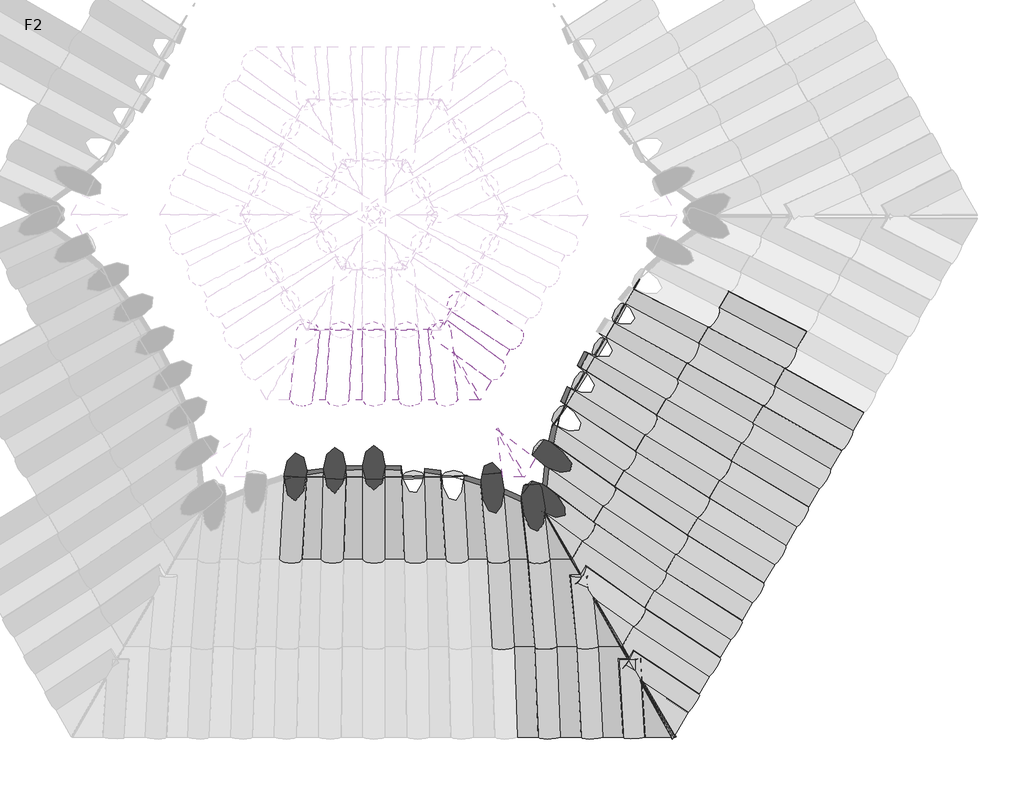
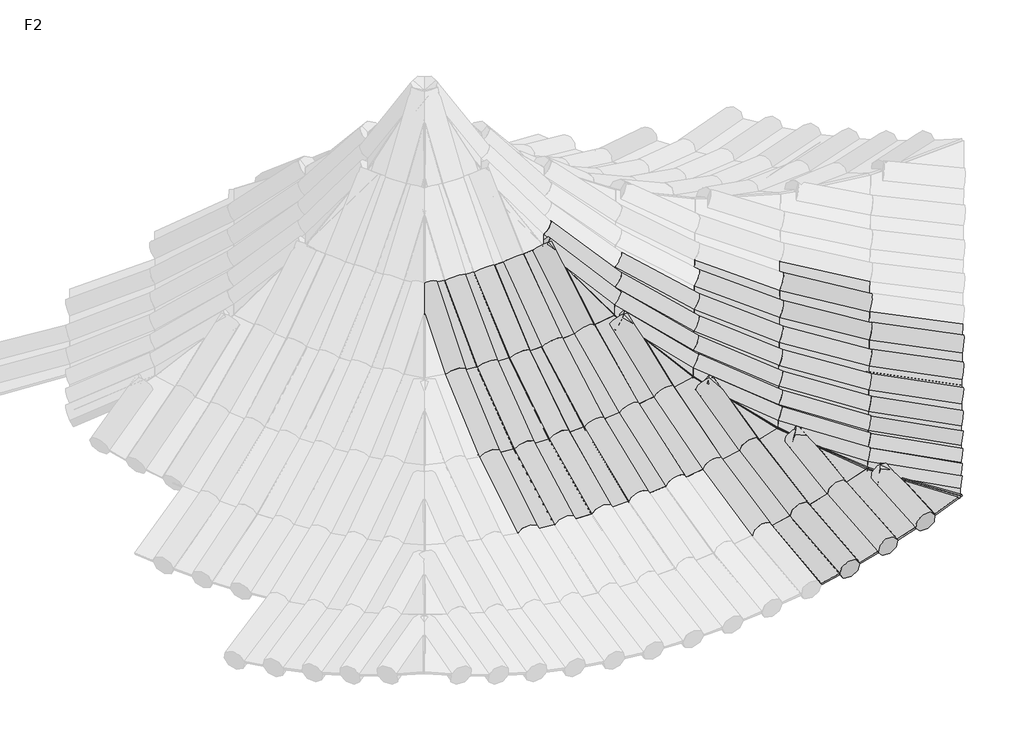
# One storey, part 2 of 6: 56 plates, 52 members.
"""IFC4 building model written with IfcOpenShell, lengths in millimetres."""

from ifc_helpers import new_model, si_unit, origin, place, context, project, spatial, transform, mapped, element, save
from components import member_7626b7be, member_fd67414a, member_5a0915c5, member_3b22838b, member_1e72f84d, member_f81221a5, member_02d8162e, member_7e32749a, member_c71233b3, member_69260188, member_985b398b, member_f4842659, member_5ab32efa, member_9361b17f, member_fd7b3f03, member_f726278f, member_74f9c3dd, member_f9a0b85f, member_28539939, member_3c0b60bf, member_ee4a1047, member_c9bd8968, member_42887ada, plate_0ebb438e, plate_6b57b127, plate_d3f52e52, plate_d213f6b1, plate_9638d80c, plate_89c366d1, plate_aaafe28a, plate_ecf98e0f, plate_a8a21952, plate_665b0e48, plate_f97c0013, plate_6a16cba0, plate_1539b490, plate_9ed079f8, plate_51358e00, plate_823a82dc, plate_c055fcc8, plate_38bc2d65, plate_a3322e93, plate_fe606144, plate_ecea87b7, plate_f94965ac, plate_2cce4260

model = new_model("IFC4")

# Units and contexts
model_context = context("Model", 3, world=origin())
ifc_project = project(units=[si_unit("LENGTHUNIT", "METRE", prefix="MILLI")], contexts=[model_context])

# Site, building, storey
site = spatial("IfcSite", under=ifc_project)
building = spatial("IfcBuilding", under=site)
storey = spatial("IfcBuildingStorey", under=building, Name="F2", Elevation=4000.0)

# Members
placement = place(None, origin())
member_shape = member_7626b7be(model_context)
element("IfcMember", 1, ObjectType="矩形竖梃 : 圆瓦", at=placement, inside=storey, context=model_context, shape_type="MappedRepresentation", body=[
    mapped(member_shape, transform((-12493.0169351, -3215.6299363, 4853.1986775), x_axis=(0.47227571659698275, 0.806505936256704, -0.3556737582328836), y_axis=(0.3156513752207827, 0.22200504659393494, 0.9225388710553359), z_axis=(0.8229944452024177, -0.5479616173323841, -0.14972711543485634))),
])
member_2_shape = member_fd67414a(model_context)
element("IfcMember", 2, ObjectType="矩形竖梃 : 圆瓦", at=placement, inside=storey, context=model_context, shape_type="MappedRepresentation", body=[
    mapped(member_2_shape, transform((-15960.18168, -1972.0884052, 4854.7494012), x_axis=(0.9926628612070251, 0.0, -0.1209150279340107), y_axis=(0.10937181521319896, -0.42640042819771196, 0.8978978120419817), z_axis=(-0.05155821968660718, -0.9045345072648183, -0.4232718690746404))),
])
element("IfcMember", 3, ObjectType="矩形竖梃 : 圆瓦", at=placement, inside=storey, context=model_context, shape_type="MappedRepresentation", body=[
    mapped(member_2_shape, transform((-15601.6633892, -1972.0884052, 4822.0668801), x_axis=(0.9981640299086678, 0.0, -0.06056871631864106), y_axis=(0.054786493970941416, -0.4264004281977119, 0.9028738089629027), z_axis=(-0.02582652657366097, -0.9045345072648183, -0.4256175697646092))),
])
element("IfcMember", 4, ObjectType="矩形竖梃 : 圆瓦", at=placement, inside=storey, context=model_context, shape_type="MappedRepresentation", body=[
    mapped(member_2_shape, transform((-15919.4448897, -1257.4044461, 5189.1817669), x_axis=(0.9926628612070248, 0.0, -0.12091502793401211), y_axis=(0.1014078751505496, -0.5446390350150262, 0.8325171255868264), z_axis=(-0.06585504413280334, -0.8386705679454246, -0.5406429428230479))),
])
element("IfcMember", 5, ObjectType="矩形竖梃 : 圆瓦", at=placement, inside=storey, context=model_context, shape_type="MappedRepresentation", body=[
    mapped(member_2_shape, transform((-15581.2575294, -1257.4044461, 5158.3526132), x_axis=(0.9981640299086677, 0.0, -0.060568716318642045), y_axis=(0.05079719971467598, -0.5446390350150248, 0.8371307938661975), z_axis=(-0.03298808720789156, -0.8386705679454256, -0.5436390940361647))),
])
element("IfcMember", 6, ObjectType="矩形竖梃 : 圆瓦", at=placement, inside=storey, context=model_context, shape_type="MappedRepresentation", body=[
    mapped(member_2_shape, transform((-15555.1932316, -594.7604043, 5587.8886197), x_axis=(0.9981640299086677, 0.0, -0.06056871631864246), y_axis=(0.04587738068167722, -0.6529007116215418, 0.7560528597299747), z_axis=(-0.039545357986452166, -0.7574435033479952, -0.6517020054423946))),
])
member_3_shape = member_5a0915c5(model_context)
element("IfcMember", 7, ObjectType="矩形竖梃 : 圆瓦", at=placement, inside=storey, context=model_context, shape_type="MappedRepresentation", body=[
    mapped(member_3_shape, transform((-15867.4120006, -594.7604043, 5616.3504772), x_axis=(0.9926628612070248, 0.0, -0.12091502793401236), y_axis=(0.0915863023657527, -0.6529007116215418, 0.7518860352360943), z_axis=(-0.07894550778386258, -0.7574435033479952, -0.6481102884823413))),
])
member_4_shape = member_3b22838b(model_context)
element("IfcMember", 8, ObjectType="矩形竖梃 : 圆瓦", at=placement, inside=storey, context=model_context, shape_type="MappedRepresentation", body=[
    mapped(member_4_shape, transform((-13726.6652136, -3504.4950657, 4625.0375895), x_axis=(0.9707591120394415, 0.0, 0.24005571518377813), y_axis=(-0.2366110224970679, -0.16879928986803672, 0.9568291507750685), z_axis=(0.040521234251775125, -0.9856504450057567, -0.1638634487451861))),
])
element("IfcMember", 9, ObjectType="矩形竖梃 : 圆瓦", at=placement, inside=storey, context=model_context, shape_type="MappedRepresentation", body=[
    mapped(member_4_shape, transform((-11358.6254101, -1278.4278597, 4440.4780088), x_axis=(0.5053183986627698, 0.8629329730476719, 0.0), y_axis=(0.1456624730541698, -0.08529738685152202, 0.9856504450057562), z_axis=(0.8505502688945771, -0.4980673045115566, -0.16879928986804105))),
])
element("IfcMember", 10, ObjectType="矩形竖梃 : 圆瓦", at=placement, inside=storey, context=model_context, shape_type="MappedRepresentation", body=[
    mapped(member_4_shape, transform((-11165.4465857, -948.536097, 4452.0660929), x_axis=(0.504390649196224, 0.861348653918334, 0.0605687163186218), y_axis=(0.11549517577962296, -0.13681412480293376, 0.9838408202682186), z_axis=(0.8557166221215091, -0.4892447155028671, -0.1684893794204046))),
])
member_5_shape = member_1e72f84d(model_context)
element("IfcMember", 11, ObjectType="矩形竖梃 : 圆瓦", at=placement, inside=storey, context=model_context, shape_type="MappedRepresentation", body=[
    mapped(member_5_shape, transform((-13358.3342427, -3504.4950657, 4728.0580377), x_axis=(0.9544369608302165, 0.0, 0.2984126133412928), y_axis=(-0.29413052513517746, -0.16879928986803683, 0.9407412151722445), z_axis=(0.0503718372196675, -0.9856504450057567, -0.1611082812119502))),
])
member_6_shape = member_f81221a5(model_context)
element("IfcMember", 12, ObjectType="矩形竖梃 : 圆瓦", at=placement, inside=storey, context=model_context, shape_type="MappedRepresentation", body=[
    mapped(member_6_shape, transform((-15241.8237888, -1972.0884052, 4811.1593559), x_axis=(1.0, 0.0, 0.0), y_axis=(0.0, -0.4264004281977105, 0.9045345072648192), z_axis=(0.0, -0.9045345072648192, -0.4264004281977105))),
])
element("IfcMember", 13, ObjectType="矩形竖梃 : 圆瓦", at=placement, inside=storey, context=model_context, shape_type="MappedRepresentation", body=[
    mapped(member_6_shape, transform((-15241.8237888, -1257.4044461, 5148.0636351), x_axis=(1.0, 0.0, 0.0), y_axis=(0.0, -0.5446390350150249, 0.8386705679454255), z_axis=(0.0, -0.8386705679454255, -0.5446390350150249))),
])
element("IfcMember", 14, ObjectType="矩形竖梃 : 圆瓦", at=placement, inside=storey, context=model_context, shape_type="MappedRepresentation", body=[
    mapped(member_6_shape, transform((-15241.8237888, -594.7604043, 5578.3897074), x_axis=(1.0, 0.0, 0.0), y_axis=(0.0, -0.6529007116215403, 0.7574435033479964), z_axis=(0.0, -0.7574435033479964, -0.6529007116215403))),
])
member_7_shape = member_02d8162e(model_context)
element("IfcMember", 15, ObjectType="矩形竖梃 : 圆瓦", at=placement, inside=storey, context=model_context, shape_type="MappedRepresentation", body=[
    mapped(member_7_shape, transform((-14124.6754413, -2725.7203958, 4675.6876498), x_axis=(0.9835166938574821, 0.0, 0.180817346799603), y_axis=(-0.17246879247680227, -0.3003508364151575, 0.9381065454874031), z_axis=(0.05430864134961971, -0.9538287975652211, -0.295400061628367))),
])
element("IfcMember", 16, ObjectType="矩形竖梃 : 圆瓦", at=placement, inside=storey, context=model_context, shape_type="MappedRepresentation", body=[
    mapped(member_7_shape, transform((-14881.9841885, -1972.0884052, 4822.0668801), x_axis=(0.9981640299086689, 0.0, 0.06056871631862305), y_axis=(-0.05478649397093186, -0.42640042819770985, 0.9028738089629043), z_axis=(0.025826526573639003, -0.9045345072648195, -0.42561756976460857))),
])
element("IfcMember", 17, ObjectType="矩形竖梃 : 圆瓦", at=placement, inside=storey, context=model_context, shape_type="MappedRepresentation", body=[
    mapped(member_7_shape, transform((-14523.4658976, -1972.0884052, 4854.7494012), x_axis=(0.9926628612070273, 0.0, 0.12091502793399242), y_axis=(-0.10937181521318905, -0.4264004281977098, 0.8978978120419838), z_axis=(0.05155821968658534, -0.9045345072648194, -0.42327186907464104))),
])
element("IfcMember", 18, ObjectType="矩形竖梃 : 圆瓦", at=placement, inside=storey, context=model_context, shape_type="MappedRepresentation", body=[
    mapped(member_7_shape, transform((-14902.3900482, -1257.4044461, 5158.3526132), x_axis=(0.998164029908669, 0.0, 0.06056871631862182), y_axis=(-0.050797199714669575, -0.5446390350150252, 0.8371307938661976), z_axis=(0.03298808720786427, -0.8386705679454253, -0.5436390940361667))),
])
element("IfcMember", 19, ObjectType="矩形竖梃 : 圆瓦", at=placement, inside=storey, context=model_context, shape_type="MappedRepresentation", body=[
    mapped(member_7_shape, transform((-14564.2026879, -1257.4044461, 5189.1817669), x_axis=(0.9926628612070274, 0.0, 0.12091502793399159), y_axis=(-0.10140787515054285, -0.5446390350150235, 0.8325171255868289), z_axis=(0.06585504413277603, -0.8386705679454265, -0.5406429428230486))),
])
element("IfcMember", 20, ObjectType="矩形竖梃 : 圆瓦", at=placement, inside=storey, context=model_context, shape_type="MappedRepresentation", body=[
    mapped(member_7_shape, transform((-14928.454346, -594.7604043, 5587.8886197), x_axis=(0.9981640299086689, 0.0, 0.060568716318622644), y_axis=(-0.04587738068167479, -0.6529007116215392, 0.756052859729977), z_axis=(0.03954535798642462, -0.7574435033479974, -0.6517020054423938))),
])
element("IfcMember", 21, ObjectType="矩形竖梃 : 圆瓦", at=placement, inside=storey, context=model_context, shape_type="MappedRepresentation", body=[
    mapped(member_7_shape, transform((-12030.6557513, -884.8986906, 4573.8484261), x_axis=(0.505318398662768, 0.862932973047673, 0.0), y_axis=(0.25918264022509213, -0.15177280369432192, 0.953828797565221), z_axis=(0.8230903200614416, -0.48198724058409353, -0.30035083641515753))),
])
element("IfcMember", 22, ObjectType="矩形竖梃 : 圆瓦", at=placement, inside=storey, context=model_context, shape_type="MappedRepresentation", body=[
    mapped(member_7_shape, transform((-11841.5589269, -561.9777652, 4585.1916462), x_axis=(0.5043906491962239, 0.861348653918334, 0.060568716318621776), y_axis=(0.22998929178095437, -0.20162632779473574, 0.9520775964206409), z_axis=(0.8322830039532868, -0.4662888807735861, -0.2997994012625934))),
])
element("IfcMember", 23, ObjectType="矩形竖梃 : 圆瓦", at=placement, inside=storey, context=model_context, shape_type="MappedRepresentation", body=[
    mapped(member_7_shape, transform((-11653.1564547, -240.2425861, 4619.1796547), x_axis=(0.5016108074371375, 0.8566015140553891, 0.12091502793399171), y_axis=(0.20090313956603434, -0.2512967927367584, 0.9468304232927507), z_axis=(0.8414419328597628, -0.45064816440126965, -0.29814712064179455))),
])
element("IfcMember", 24, ObjectType="矩形竖梃 : 圆瓦", at=placement, inside=storey, context=model_context, shape_type="MappedRepresentation", body=[
    mapped(member_7_shape, transform((-12680.9896456, -504.0745799, 4811.1593559), x_axis=(0.5053183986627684, 0.8629329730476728, 0.0), y_axis=(0.36795498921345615, -0.215467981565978, 0.904534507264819), z_axis=(0.7805526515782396, -0.4570779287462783, -0.4264004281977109))),
])
element("IfcMember", 25, ObjectType="矩形竖梃 : 圆瓦", at=placement, inside=storey, context=model_context, shape_type="MappedRepresentation", body=[
    mapped(member_7_shape, transform((-12499.156075, -193.5571237, 4822.0668801), x_axis=(0.5043906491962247, 0.8613486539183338, 0.060568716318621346), y_axis=(0.3402703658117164, -0.262745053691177, 0.9028738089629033), z_axis=(0.7936032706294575, -0.4347913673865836, -0.42561756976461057))),
])
element("IfcMember", 26, ObjectType="矩形竖梃 : 圆瓦", at=placement, inside=storey, context=model_context, shape_type="MappedRepresentation", body=[
    mapped(member_7_shape, transform((-13297.7139992, -142.9316261, 5148.0636351), x_axis=(0.5053183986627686, 0.8629329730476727, 0.0), y_axis=(0.46998698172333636, -0.275216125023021, 0.8386705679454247), z_axis=(0.7237164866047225, -0.4237956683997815, -0.5446390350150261))),
])
member_8_shape = member_7e32749a(model_context)
element("IfcMember", 27, ObjectType="矩形竖梃 : 圆瓦", at=placement, inside=storey, context=model_context, shape_type="MappedRepresentation", body=[
    mapped(member_8_shape, transform((-13758.6815446, -2725.7203958, 4754.5081374), x_axis=(0.9707591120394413, 0.0, 0.2400557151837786), y_axis=(-0.22897205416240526, -0.3003508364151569, 0.9259379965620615), z_axis=(0.07210093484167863, -0.9538287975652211, -0.2915683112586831))),
])
member_9_shape = member_c71233b3(model_context)
element("IfcMember", 28, ObjectType="矩形竖梃 : 圆瓦", at=placement, inside=storey, context=model_context, shape_type="MappedRepresentation", body=[
    mapped(member_9_shape, transform((-14167.585374, -1972.0884052, 4909.0869108), x_axis=(0.983516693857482, 0.0, 0.18081734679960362), y_axis=(-0.16355552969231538, -0.4264004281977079, 0.889624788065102), z_axis=(0.07710059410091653, -0.9045345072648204, -0.4193719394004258))),
])
member_10_shape = member_69260188(model_context)
element("IfcMember", 29, ObjectType="矩形竖梃 : 圆瓦", at=placement, inside=storey, context=model_context, shape_type="MappedRepresentation", body=[
    mapped(member_10_shape, transform((-14228.5035119, -1257.4044461, 5240.4378936), x_axis=(0.983516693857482, 0.0, 0.18081734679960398), y_axis=(-0.15205700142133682, -0.5411244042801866, 0.8270810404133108), z_axis=(0.09784467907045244, -0.8409425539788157, -0.5322048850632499))),
])
member_11_shape = member_985b398b(model_context)
element("IfcMember", 30, ObjectType="矩形竖梃 : 圆瓦", at=placement, inside=storey, context=model_context, shape_type="MappedRepresentation", body=[
    mapped(member_11_shape, transform((-14616.235577, -594.7604043, 5616.3504772), x_axis=(0.9926628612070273, 0.0, 0.12091502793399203), y_axis=(-0.09158630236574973, -0.6529007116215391, 0.7518860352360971), z_axis=(0.07894550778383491, -0.7574435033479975, -0.648110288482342))),
])
member_12_shape = member_f4842659(model_context)
element("IfcMember", 31, ObjectType="矩形竖梃 : 圆瓦", at=placement, inside=storey, context=model_context, shape_type="MappedRepresentation", body=[
    mapped(member_12_shape, transform((-13398.1336574, -2725.7203958, 4855.3516935), x_axis=(0.9544369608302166, 0.0, 0.2984126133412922), y_axis=(-0.2856661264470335, -0.28914372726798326, 0.9136688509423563), z_axis=(0.08628413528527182, -0.957285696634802, -0.2759694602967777))),
])
member_13_shape = member_5ab32efa(model_context)
element("IfcMember", 32, ObjectType="矩形竖梃 : 圆瓦", at=placement, inside=storey, context=model_context, shape_type="MappedRepresentation", body=[
    mapped(member_13_shape, transform((-13815.6493895, -1972.0884052, 4984.8798848), x_axis=(0.9707591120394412, 0.0, 0.2400557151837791), y_axis=(-0.21812448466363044, -0.4175779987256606, 0.8820716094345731), z_axis=(0.10024198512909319, -0.908641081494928, -0.4053676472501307))),
])
member_14_shape = member_9361b17f(model_context)
element("IfcMember", 33, ObjectType="矩形竖梃 : 圆瓦", at=placement, inside=storey, context=model_context, shape_type="MappedRepresentation", body=[
    mapped(member_14_shape, transform((-12996.9193326, -3504.4950657, 4853.1986775), x_axis=(0.9346101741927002, 0.0, 0.355673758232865), y_axis=(-0.35107984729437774, -0.16020404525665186, 0.9225386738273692), z_axis=(0.05698037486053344, -0.9870839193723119, -0.14972833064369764))),
])
member_15_shape = member_fd7b3f03(model_context)
element("IfcMember", 34, ObjectType="矩形竖梃 : 圆瓦", at=placement, inside=storey, context=model_context, shape_type="MappedRepresentation", body=[
    mapped(member_15_shape, transform((-12962.3062961, -2475.879697, 4855.3516935), x_axis=(0.48229455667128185, 0.8236151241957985, -0.29841261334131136), y_axis=(0.39386290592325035, 0.10040185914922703, 0.9136692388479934), z_axis=(0.7824729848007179, -0.5581913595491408, -0.275968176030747))),
])
member_16_shape = member_f726278f(model_context)
element("IfcMember", 35, ObjectType="矩形竖梃 : 圆瓦", at=placement, inside=storey, context=model_context, shape_type="MappedRepresentation", body=[
    mapped(member_16_shape, transform((-12310.3873315, -2903.7530934, 4728.0580377), x_axis=(0.48229455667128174, 0.8236151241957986, -0.2984126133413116), y_axis=(0.2942920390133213, 0.16851754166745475, 0.9407412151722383), z_axis=(0.825096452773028, -0.5415348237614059, -0.16110828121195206))),
])
member_17_shape = member_74f9c3dd(model_context)
element("IfcMember", 36, ObjectType="矩形竖梃 : 圆瓦", at=placement, inside=storey, context=model_context, shape_type="MappedRepresentation", body=[
    mapped(member_17_shape, transform((-12780.1148152, -2164.7510369, 4754.5081374), x_axis=(0.49054243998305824, 0.8377000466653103, -0.24005571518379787), y_axis=(0.3748864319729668, 0.04581473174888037, 0.9259379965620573), z_axis=(0.7866563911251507, -0.5442055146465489, -0.2915683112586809))),
])
member_18_shape = member_f9a0b85f(model_context)
element("IfcMember", 37, ObjectType="矩形竖梃 : 圆瓦", at=placement, inside=storey, context=model_context, shape_type="MappedRepresentation", body=[
    mapped(member_18_shape, transform((-13401.6618092, -1734.7674943, 4984.8798848), x_axis=(0.49054243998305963, 0.8377000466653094, -0.24005571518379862), y_axis=(0.47056279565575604, -0.022782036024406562, 0.8820723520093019), z_axis=(0.7334430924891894, -0.5456552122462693, -0.40536603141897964))),
])
member_19_shape = member_28539939(model_context)
element("IfcMember", 38, ObjectType="矩形竖梃 : 圆瓦", at=placement, inside=storey, context=model_context, shape_type="MappedRepresentation", body=[
    mapped(member_19_shape, transform((-12124.262915, -2585.9081536, 4625.0375895), x_axis=(0.49054243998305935, 0.8377000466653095, -0.24005571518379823), y_axis=(0.26522637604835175, 0.11888206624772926, 0.9568291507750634), z_axis=(0.8300741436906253, -0.5330344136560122, -0.16386344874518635))),
])
element("IfcMember", 39, ObjectType="矩形竖梃 : 圆瓦", at=placement, inside=storey, context=model_context, shape_type="MappedRepresentation", body=[
    mapped(member_19_shape, transform((-11935.3271235, -2263.2622243, 4544.5156178), x_axis=(0.4969890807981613, 0.8487089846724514, -0.18081734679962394), y_axis=(0.23572168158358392, 0.06849685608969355, 0.9694036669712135), z_axis=(0.8351270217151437, -0.5244056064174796, -0.16601691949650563))),
])
element("IfcMember", 40, ObjectType="矩形竖梃 : 圆瓦", at=placement, inside=storey, context=model_context, shape_type="MappedRepresentation", body=[
    mapped(member_19_shape, transform((-11744.2737177, -1937.0000421, 4486.7877946), x_axis=(0.5016108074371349, 0.8566015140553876, -0.1209150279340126), y_axis=(0.20588629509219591, 0.017546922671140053, 0.9784185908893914), z_axis=(0.8402365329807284, -0.5156800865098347, -0.1675607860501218))),
])
element("IfcMember", 41, ObjectType="矩形竖梃 : 圆瓦", at=placement, inside=storey, context=model_context, shape_type="MappedRepresentation", body=[
    mapped(member_19_shape, transform((-11551.8042345, -1608.3196223, 4452.0660929), x_axis=(0.5043906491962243, 0.8613486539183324, -0.06056871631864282), y_axis=(0.1758297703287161, -0.0337806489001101, 0.9838408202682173), z_axis=(0.8453839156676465, -0.5068898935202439, -0.1684893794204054))),
])
member_20_shape = member_3c0b60bf(model_context)
element("IfcMember", 42, ObjectType="矩形竖梃 : 圆瓦", at=placement, inside=storey, context=model_context, shape_type="MappedRepresentation", body=[
    mapped(member_20_shape, transform((-12595.1713654, -1848.9228354, 4675.6876498), x_axis=(0.49698908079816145, 0.8487089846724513, -0.18081734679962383), y_axis=(0.3463342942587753, -0.0029437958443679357, 0.9381065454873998), z_axis=(0.7956471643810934, -0.5288519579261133, -0.2954000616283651))),
])
element("IfcMember", 43, ObjectType="矩形竖梃 : 圆瓦", at=placement, inside=storey, context=model_context, shape_type="MappedRepresentation", body=[
    mapped(member_20_shape, transform((-12408.155048, -1529.554795, 4619.1796547), x_axis=(0.5016108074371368, 0.8566015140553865, -0.12091502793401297), y_axis=(0.31746214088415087, -0.05224881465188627, 0.9468304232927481), z_axis=(0.8047387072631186, -0.5133263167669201, -0.298147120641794))),
])
element("IfcMember", 44, ObjectType="矩形竖梃 : 圆瓦", at=placement, inside=storey, context=model_context, shape_type="MappedRepresentation", body=[
    mapped(member_20_shape, transform((-12219.7525758, -1207.819616, 4585.1916462), x_axis=(0.5043906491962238, 0.8613486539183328, -0.06056871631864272), y_axis=(0.28837598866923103, -0.10191927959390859, 0.9520775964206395), z_axis=(0.8138976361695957, -0.4976856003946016, -0.2997994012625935))),
])
element("IfcMember", 45, ObjectType="矩形竖梃 : 圆瓦", at=placement, inside=storey, context=model_context, shape_type="MappedRepresentation", body=[
    mapped(member_20_shape, transform((-13043.9891048, -1123.9692906, 4854.7494012), x_axis=(0.5016108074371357, 0.8566015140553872, -0.12091502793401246), y_axis=(0.4232225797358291, -0.12108743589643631, 0.8978978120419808), z_axis=(0.7544993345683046, -0.5015692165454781, -0.4232718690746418))),
])
element("IfcMember", 46, ObjectType="矩形竖梃 : 圆瓦", at=placement, inside=storey, context=model_context, shape_type="MappedRepresentation", body=[
    mapped(member_20_shape, transform((-12862.8232162, -814.592036, 4822.0668801), x_axis=(0.5043906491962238, 0.8613486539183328, -0.060568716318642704), y_axis=(0.3956396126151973, -0.1681909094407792, 0.9028738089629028), z_axis=(0.7675020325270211, -0.47936449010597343, -0.4256175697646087))),
])
element("IfcMember", 47, ObjectType="矩形竖梃 : 圆瓦", at=placement, inside=storey, context=model_context, shape_type="MappedRepresentation", body=[
    mapped(member_20_shape, transform((-13640.1284088, -727.6732173, 5189.1817669), x_axis=(0.5016108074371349, 0.8566015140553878, -0.12091502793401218), y_axis=(0.5212302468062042, -0.1877079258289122, 0.832517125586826), z_axis=(0.6904387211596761, -0.48062415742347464, -0.5406429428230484))),
])
element("IfcMember", 48, ObjectType="矩形竖梃 : 圆瓦", at=placement, inside=storey, context=model_context, shape_type="MappedRepresentation", body=[
    mapped(member_20_shape, transform((-13469.2361134, -435.8401931, 5158.3526132), x_axis=(0.5043906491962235, 0.8613486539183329, -0.060568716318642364), y_axis=(0.4956557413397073, -0.231381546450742, 0.8371307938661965), z_axis=(0.7070469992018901, -0.45226217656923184, -0.5436390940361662))),
])
element("IfcMember", 49, ObjectType="矩形竖梃 : 圆瓦", at=placement, inside=storey, context=model_context, shape_type="MappedRepresentation", body=[
    mapped(member_20_shape, transform((-14027.8827373, -78.502225, 5587.8886197), x_axis=(0.5043906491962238, 0.8613486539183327, -0.060568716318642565), y_axis=(0.5865922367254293, -0.29033363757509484, 0.7560528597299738), z_axis=(0.6336399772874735, -0.4168751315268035, -0.6517020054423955))),
])
member_21_shape = member_ee4a1047(model_context)
element("IfcMember", 50, ObjectType="矩形竖梃 : 圆瓦", at=placement, inside=storey, context=model_context, shape_type="MappedRepresentation", body=[
    mapped(member_21_shape, transform((-13223.8220812, -1431.070329, 4909.0869108), x_axis=(0.4969890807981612, 0.8487089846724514, -0.18081734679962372), y_axis=(0.4506026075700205, -0.07433052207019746, 0.8896247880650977), z_axis=(0.7415923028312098, -0.5236105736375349, -0.41937193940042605))),
])
member_22_shape = member_c9bd8968(model_context)
element("IfcMember", 51, ObjectType="矩形竖梃 : 圆瓦", at=placement, inside=storey, context=model_context, shape_type="MappedRepresentation", body=[
    mapped(member_22_shape, transform((-13809.7633789, -1017.3591054, 5240.4378936), x_axis=(0.4969890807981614, 0.8487089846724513, -0.18081734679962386), y_axis=(0.5437896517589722, -0.14222388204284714, 0.8270823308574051), z_axis=(0.6762356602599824, -0.5093774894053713, -0.5322028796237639))),
])
member_23_shape = member_42887ada(model_context)
element("IfcMember", 52, ObjectType="矩形竖梃 : 圆瓦", at=placement, inside=storey, context=model_context, shape_type="MappedRepresentation", body=[
    mapped(member_23_shape, transform((-14185.6526257, -347.9260956, 5616.3504772), x_axis=(0.5016108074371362, 0.856601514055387, -0.12091502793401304), y_axis=(0.6096897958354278, -0.2508899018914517, 0.7518860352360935), z_axis=(0.6137303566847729, -0.4508748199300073, -0.6481102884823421))),
])

# Plates
plate_shape = plate_0ebb438e(model_context)
element("IfcPlate", 53, ObjectType="空系统嵌板 : 空", at=placement, inside=storey, context=model_context, shape_type="MappedRepresentation", body=[
    mapped(plate_shape, transform((-12424.7797093, -3099.1011254, 4806.441471), x_axis=(0.4775043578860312, 0.8154348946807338, -0.3271933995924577), y_axis=(-0.30856396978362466, -0.1930387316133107, -0.9314098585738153), z_axis=(-0.8226650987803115, 0.5457123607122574, 0.15943699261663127))),
])
plate_2_shape = plate_6b57b127(model_context)
element("IfcPlate", 54, ObjectType="空系统嵌板 : 空", at=placement, inside=storey, context=model_context, shape_type="MappedRepresentation", body=[
    mapped(plate_2_shape, transform((-13913.612485, -3504.4950657, 4584.7766036), x_axis=(0.9775867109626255, 0.0, 0.21053318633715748), y_axis=(0.20751484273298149, 0.16872400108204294, -0.963571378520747), z_axis=(-0.03552200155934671, 0.9856633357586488, 0.16494234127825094))),
])
element("IfcPlate", 55, ObjectType="空系统嵌板 : 空", at=placement, inside=storey, context=model_context, shape_type="MappedRepresentation", body=[
    mapped(plate_2_shape, transform((-13542.4997281, -3504.4950657, 4676.5478136), x_axis=(0.9630401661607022, 0.0, 0.26935782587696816), y_axis=(0.26549613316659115, 0.168724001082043, -0.9492333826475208), z_axis=(-0.04544713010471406, 0.9856633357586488, 0.16248799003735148))),
])
element("IfcPlate", 56, ObjectType="空系统嵌板 : 空", at=placement, inside=storey, context=model_context, shape_type="MappedRepresentation", body=[
    mapped(plate_2_shape, transform((-12217.3251232, -2744.8306235, 4676.5478136), x_axis=(0.48664191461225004, 0.8310391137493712, -0.2693578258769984), y_axis=(-0.27975758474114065, -0.1438460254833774, -0.9492333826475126), z_axis=(-0.8275961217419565, 0.5372916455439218, 0.16248799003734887))),
])
element("IfcPlate", 57, ObjectType="空系统嵌板 : 空", at=placement, inside=storey, context=model_context, shape_type="MappedRepresentation", body=[
    mapped(plate_2_shape, transform((-12029.7950192, -2424.5851889, 4584.7766036), x_axis=(0.4939925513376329, 0.8435918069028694, -0.21053318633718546), y_axis=(-0.25045857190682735, -0.0938120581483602, -0.9635713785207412), z_axis=(-0.8326114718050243, 0.5287269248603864, 0.1649423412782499))),
])
element("IfcPlate", 58, ObjectType="空系统嵌板 : 空", at=placement, inside=storey, context=model_context, shape_type="MappedRepresentation", body=[
    mapped(plate_2_shape, transform((-11839.8004206, -2100.1311332, 4515.6517062), x_axis=(0.49952927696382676, 0.8530468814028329, -0.1509354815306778), y_axis=(-0.2207745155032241, -0.04312055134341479, -0.9743711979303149), z_axis=(-0.8376927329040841, 0.520049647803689, 0.16679103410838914))),
])
element("IfcPlate", 59, ObjectType="空系统嵌板 : 空", at=placement, inside=storey, context=model_context, shape_type="MappedRepresentation", body=[
    mapped(plate_2_shape, transform((-11648.0389761, -1772.6598322, 4469.4269438), x_axis=(0.5032317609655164, 0.8593696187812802, -0.09078355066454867), y_axis=(-0.19081441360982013, 0.008042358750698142, -0.9815931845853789), z_axis=(-0.8428212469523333, 0.5112916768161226, 0.1680272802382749))),
])
element("IfcPlate", 60, ObjectType="空系统嵌板 : 空", at=placement, inside=storey, context=model_context, shape_type="MappedRepresentation", body=[
    mapped(plate_2_shape, transform((-11455.2148223, -1443.373741, 4446.2720508), x_axis=(0.5050864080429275, 0.8625368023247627, -0.030298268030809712), y_axis=(-0.16068827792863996, 0.05948880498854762, -0.985210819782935), z_axis=(-0.8479781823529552, 0.5024851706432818, 0.16864654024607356))),
])
element("IfcPlate", 61, ObjectType="空系统嵌板 : 空", at=placement, inside=storey, context=model_context, shape_type="MappedRepresentation", body=[
    mapped(plate_2_shape, transform((-11262.0359979, -1113.4819784, 4446.2720508), x_axis=(0.5050864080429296, 0.8625368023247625, 0.030298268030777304), y_axis=(-0.13050672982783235, 0.11102987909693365, -0.9852108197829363), z_axis=(-0.8531446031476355, 0.4936624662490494, 0.16864654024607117))),
])
element("IfcPlate", 62, ObjectType="空系统嵌板 : 空", at=placement, inside=storey, context=model_context, shape_type="MappedRepresentation", body=[
    mapped(plate_2_shape, transform((-11069.2118441, -784.1958871, 4469.4269438), x_axis=(0.5032317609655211, 0.8593696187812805, 0.09078355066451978), y_axis=(-0.10038059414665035, 0.16247632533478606, -0.9815931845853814), z_axis=(-0.8583015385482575, 0.4848559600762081, 0.16802728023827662))),
])
plate_3_shape = plate_d3f52e52(model_context)
element("IfcPlate", 63, ObjectType="空系统嵌板 : 空", at=placement, inside=storey, context=model_context, shape_type="MappedRepresentation", body=[
    mapped(plate_3_shape, transform((-13062.7554571, -2648.1901581, 4924.281917), x_axis=(0.47750435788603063, 0.815434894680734, -0.3271933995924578), y_axis=(-0.4167839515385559, -0.11761146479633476, -0.9013648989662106), z_axis=(-0.7734860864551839, 0.5667746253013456, 0.2837001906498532))),
])
plate_4_shape = plate_d213f6b1(model_context)
element("IfcPlate", 64, ObjectType="空系统嵌板 : 空", at=placement, inside=storey, context=model_context, shape_type="MappedRepresentation", body=[
    mapped(plate_4_shape, transform((-12894.1508049, -2359.4904643, 4817.6274153), x_axis=(0.4866419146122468, 0.8310391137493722, -0.26935782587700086), y_axis=(-0.3889067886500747, -0.0700055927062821, -0.9186134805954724), z_axis=(-0.7822602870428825, 0.5517909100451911, 0.2891290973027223))),
])
plate_5_shape = plate_9638d80c(model_context)
element("IfcPlate", 65, ObjectType="空系统嵌板 : 空", at=placement, inside=storey, context=model_context, shape_type="MappedRepresentation", body=[
    mapped(plate_5_shape, transform((-13941.6784929, -2725.7203958, 4715.0978936), x_axis=(0.9775867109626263, 0.0, 0.21053318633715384), y_axis=(0.20082093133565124, 0.30022537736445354, -0.9324889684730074), z_axis=(-0.06320740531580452, 0.9538682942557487, 0.29349633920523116))),
])
element("IfcPlate", 66, ObjectType="空系统嵌板 : 空", at=placement, inside=storey, context=model_context, shape_type="MappedRepresentation", body=[
    mapped(plate_5_shape, transform((-12687.6430903, -2006.8369361, 4715.0978936), x_axis=(0.4939925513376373, 0.843591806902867, -0.21053318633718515), y_axis=(-0.3605528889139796, -0.02158559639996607, -0.932488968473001), z_axis=(-0.7911845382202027, 0.5365509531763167, 0.29349633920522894))),
])
element("IfcPlate", 67, ObjectType="空系统嵌板 : 空", at=placement, inside=storey, context=model_context, shape_type="MappedRepresentation", body=[
    mapped(plate_5_shape, transform((-12501.6632067, -1689.2388152, 4647.4336523), x_axis=(0.4995292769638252, 0.8530468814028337, -0.1509354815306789), y_axis=(-0.3318263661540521, 0.027470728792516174, -0.9429404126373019), z_axis=(-0.8002260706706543, 0.5211107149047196, 0.2967858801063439))),
])
element("IfcPlate", 68, ObjectType="空系统嵌板 : 空", at=placement, inside=storey, context=model_context, shape_type="MappedRepresentation", body=[
    mapped(plate_5_shape, transform((-12313.9538119, -1368.6872055, 4602.1856505), x_axis=(0.5032317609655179, 0.859369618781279, -0.09078355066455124), y_axis=(-0.302832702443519, 0.07698325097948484, -0.9499294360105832), z_axis=(-0.8093516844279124, 0.5055268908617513, 0.29898564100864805))),
])
element("IfcPlate", 69, ObjectType="空系统嵌板 : 空", at=placement, inside=storey, context=model_context, shape_type="MappedRepresentation", body=[
    mapped(plate_5_shape, transform((-12125.2041635, -1046.3591533, 4579.5200362), x_axis=(0.5050864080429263, 0.8625368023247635, -0.03029826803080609), y_axis=(-0.2736783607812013, 0.12677016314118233, -0.9534303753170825), z_axis=(-0.8185278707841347, 0.4898567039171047, 0.3000875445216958))),
])
element("IfcPlate", 70, ObjectType="空系统嵌板 : 空", at=placement, inside=storey, context=model_context, shape_type="MappedRepresentation", body=[
    mapped(plate_5_shape, transform((-11936.1073391, -723.4382279, 4579.5200362), x_axis=(0.5050864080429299, 0.8625368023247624, 0.03029826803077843), y_axis=(-0.24447039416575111, 0.1766486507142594, -0.9534303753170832), z_axis=(-0.8277209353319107, 0.47415769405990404, 0.30008754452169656))),
])
element("IfcPlate", 71, ObjectType="空系统嵌板 : 空", at=placement, inside=storey, context=model_context, shape_type="MappedRepresentation", body=[
    mapped(plate_5_shape, transform((-11747.3576908, -401.1101757, 4602.1856505), x_axis=(0.5032317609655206, 0.8593696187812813, 0.09078355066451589), y_axis=(-0.2153160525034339, 0.22643556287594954, -0.9499294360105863), z_axis=(-0.8368971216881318, 0.458487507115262, 0.29898564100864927))),
])
element("IfcPlate", 72, ObjectType="空系统嵌板 : 空", at=placement, inside=storey, context=model_context, shape_type="MappedRepresentation", body=[
    mapped(plate_5_shape, transform((-11559.648296, -80.5585659, 4647.4336523), x_axis=(0.4995292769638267, 0.8530468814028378, 0.15093548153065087), y_axis=(-0.1863223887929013, 0.2759480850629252, -0.9429404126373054), z_axis=(-0.8460227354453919, 0.4429036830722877, 0.29678588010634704))),
])
plate_6_shape = plate_89c366d1(model_context)
element("IfcPlate", 73, ObjectType="空系统嵌板 : 空", at=placement, inside=storey, context=model_context, shape_type="MappedRepresentation", body=[
    mapped(plate_6_shape, transform((-13497.9651603, -1900.415527, 5038.1770919), x_axis=(0.48664191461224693, 0.8310391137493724, -0.269357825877), y_axis=(-0.4909445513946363, 0.005121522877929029, -0.8711757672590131), z_axis=(-0.7226016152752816, 0.5561904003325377, 0.4104864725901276))),
])
plate_7_shape = plate_aaafe28a(model_context)
element("IfcPlate", 74, ObjectType="空系统嵌板 : 空", at=placement, inside=storey, context=model_context, shape_type="MappedRepresentation", body=[
    mapped(plate_7_shape, transform((-13313.1485384, -1583.6132514, 4947.1566825), x_axis=(0.4939925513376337, 0.8435918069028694, -0.21053318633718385), y_axis=(-0.4640548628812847, 0.051041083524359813, -0.884334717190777), z_axis=(-0.7352716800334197, 0.5345537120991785, 0.4166867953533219))),
])
plate_8_shape = plate_ecf98e0f(model_context)
element("IfcPlate", 75, ObjectType="空系统嵌板 : 空", at=placement, inside=storey, context=model_context, shape_type="MappedRepresentation", body=[
    mapped(plate_8_shape, transform((-15780.9225346, -1972.0884052, 4838.4081407), x_axis=(0.9958706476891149, 0.0, -0.09078355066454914), y_axis=(-0.08212370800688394, 0.42624024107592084, -0.9008745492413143), z_axis=(0.03869560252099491, 0.9046100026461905, 0.4244801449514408))),
])
element("IfcPlate", 76, ObjectType="空系统嵌板 : 空", at=placement, inside=storey, context=model_context, shape_type="MappedRepresentation", body=[
    mapped(plate_8_shape, transform((-15421.743589, -1972.0884052, 4816.613118), x_axis=(0.999540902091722, 0.0, -0.03029826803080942), y_axis=(-0.027408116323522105, 0.4262402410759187, -0.9041946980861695), z_axis=(0.012914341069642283, 0.9046100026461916, 0.4260445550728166))),
])
element("IfcPlate", 77, ObjectType="空系统嵌板 : 空", at=placement, inside=storey, context=model_context, shape_type="MappedRepresentation", body=[
    mapped(plate_8_shape, transform((-15061.9039886, -1972.0884052, 4816.613118), x_axis=(0.9995409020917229, 0.0, 0.030298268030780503), y_axis=(0.027408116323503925, 0.4262402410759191, -0.9041946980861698), z_axis=(-0.012914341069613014, 0.9046100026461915, 0.4260445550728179))),
])
element("IfcPlate", 78, ObjectType="空系统嵌板 : 空", at=placement, inside=storey, context=model_context, shape_type="MappedRepresentation", body=[
    mapped(plate_8_shape, transform((-14702.725043, -1972.0884052, 4838.4081407), x_axis=(0.9958706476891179, 0.0, 0.09078355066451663), y_axis=(0.08212370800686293, 0.4262402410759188, -0.9008745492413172), z_axis=(-0.038695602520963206, 0.9046100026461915, 0.4244801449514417))),
])
element("IfcPlate", 79, ObjectType="空系统嵌板 : 空", at=placement, inside=storey, context=model_context, shape_type="MappedRepresentation", body=[
    mapped(plate_8_shape, transform((-14345.5256358, -1972.0884052, 4881.918156), x_axis=(0.9885436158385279, 0.0, 0.15093548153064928), y_axis=(0.13653774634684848, 0.4262402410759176, -0.8942464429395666), z_axis=(-0.06433477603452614, 0.9046100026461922, 0.4213570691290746))),
])
element("IfcPlate", 80, ObjectType="空系统嵌板 : 空", at=placement, inside=storey, context=model_context, shape_type="MappedRepresentation", body=[
    mapped(plate_8_shape, transform((-13133.905593, -1277.5198098, 4881.918156), x_axis=(0.49952927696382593, 0.8530468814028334, -0.15093548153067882), y_axis=(-0.436811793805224, 0.09756411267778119, -0.8942464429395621), z_axis=(-0.7481082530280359, 0.5126326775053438, 0.42135706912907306))),
])
element("IfcPlate", 81, ObjectType="空系统嵌板 : 空", at=placement, inside=storey, context=model_context, shape_type="MappedRepresentation", body=[
    mapped(plate_8_shape, transform((-12953.4061605, -969.2806633, 4838.4081407), x_axis=(0.5032317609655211, 0.859369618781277, -0.09078355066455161), y_axis=(-0.40931537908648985, 0.14451978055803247, -0.9008745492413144), z_axis=(-0.7610641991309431, 0.49050778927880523, 0.42448014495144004))),
])
element("IfcPlate", 82, ObjectType="空系统嵌板 : 空", at=placement, inside=storey, context=model_context, shape_type="MappedRepresentation", body=[
    mapped(plate_8_shape, transform((-12771.9064309, -659.333308, 4816.613118), x_axis=(0.5050864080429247, 0.8625368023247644, -0.030298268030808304), y_axis=(-0.38166658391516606, 0.19173566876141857, -0.9041946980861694), z_axis=(-0.7740919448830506, 0.4682602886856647, 0.4260445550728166))),
])
element("IfcPlate", 83, ObjectType="空系统嵌板 : 空", at=placement, inside=storey, context=model_context, shape_type="MappedRepresentation", body=[
    mapped(plate_8_shape, transform((-12590.0728603, -348.8158518, 4816.613118), x_axis=(0.5050864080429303, 0.862536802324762, 0.030298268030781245), y_axis=(-0.35396693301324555, 0.2390384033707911, -0.9041946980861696), z_axis=(-0.7871436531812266, 0.4459718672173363, 0.426044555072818))),
])
element("IfcPlate", 84, ObjectType="空系统嵌板 : 空", at=placement, inside=storey, context=model_context, shape_type="MappedRepresentation", body=[
    mapped(plate_8_shape, transform((-12408.5731307, -38.8684964, 4838.4081407), x_axis=(0.5032317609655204, 0.8593696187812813, 0.09078355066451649), y_axis=(-0.3263181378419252, 0.28625429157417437, -0.900874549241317), z_axis=(-0.8001713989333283, 0.42372436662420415, 0.42448014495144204))),
])
plate_9_shape = plate_a8a21952(model_context)
element("IfcPlate", 85, ObjectType="空系统嵌板 : 空", at=placement, inside=storey, context=model_context, shape_type="MappedRepresentation", body=[
    mapped(plate_9_shape, transform((-13906.5803737, -1183.7801303, 5281.5374011), x_axis=(0.49399255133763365, 0.8435918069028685, -0.21053318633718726), y_axis=(-0.559070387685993, 0.12274014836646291, -0.8199848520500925), z_axis=(-0.6658916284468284, 0.522769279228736, 0.5322599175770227))),
])
plate_10_shape = plate_665b0e48(model_context)
element("IfcPlate", 86, ObjectType="空系统嵌板 : 空", at=placement, inside=storey, context=model_context, shape_type="MappedRepresentation", body=[
    mapped(plate_10_shape, transform((-13725.1666922, -872.893219, 5214.8765457), x_axis=(0.49952927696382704, 0.8530468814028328, -0.15093548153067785), y_axis=(-0.5338096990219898, 0.16587786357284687, -0.8291753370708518), z_axis=(-0.6822885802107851, 0.49476818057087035, 0.5382255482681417))),
])
plate_11_shape = plate_f97c0013(model_context)
element("IfcPlate", 87, ObjectType="空系统嵌板 : 空", at=placement, inside=storey, context=model_context, shape_type="MappedRepresentation", body=[
    mapped(plate_11_shape, transform((-14284.3317045, -516.9344515, 5646.0144329), x_axis=(0.49952927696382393, 0.8530468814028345, -0.15093548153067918), y_axis=(-0.6210429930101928, 0.23116161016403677, -0.7489124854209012), z_axis=(-0.6039669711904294, 0.46784113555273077, 0.6452507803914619))),
])
plate_12_shape = plate_6a16cba0(model_context)
element("IfcPlate", 88, ObjectType="空系统嵌板 : 空", at=placement, inside=storey, context=model_context, shape_type="MappedRepresentation", body=[
    mapped(plate_12_shape, transform((-15750.3512096, -1257.4044461, 5173.76719), x_axis=(0.995870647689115, 0.0, -0.09078355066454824), y_axis=(-0.07614786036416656, 0.5444631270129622, -0.8353211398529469), z_axis=(0.04942829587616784, 0.8387847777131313, 0.5422148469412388))),
])
element("IfcPlate", 89, ObjectType="空系统嵌板 : 空", at=placement, inside=storey, context=model_context, shape_type="MappedRepresentation", body=[
    mapped(plate_12_shape, transform((-15411.5406591, -1257.4044461, 5153.2081241), x_axis=(0.9995409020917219, 0.0, -0.030298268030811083), y_axis=(-0.025413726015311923, 0.5444631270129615, -0.8383996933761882), z_axis=(0.016496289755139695, 0.8387847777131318, 0.5442131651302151))),
])
element("IfcPlate", 90, ObjectType="空系统嵌板 : 空", at=placement, inside=storey, context=model_context, shape_type="MappedRepresentation", body=[
    mapped(plate_12_shape, transform((-15072.1069185, -1257.4044461, 5153.2081241), x_axis=(0.9995409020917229, 0.0, 0.03029826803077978), y_axis=(0.025413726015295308, 0.5444631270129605, -0.8383996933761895), z_axis=(-0.016496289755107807, 0.8387847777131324, 0.544213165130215))),
])
element("IfcPlate", 91, ObjectType="空系统嵌板 : 空", at=placement, inside=storey, context=model_context, shape_type="MappedRepresentation", body=[
    mapped(plate_12_shape, transform((-14733.2963681, -1257.4044461, 5173.76719), x_axis=(0.9958706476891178, 0.0, 0.0907835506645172), y_axis=(0.0761478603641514, 0.5444631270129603, -0.8353211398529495), z_axis=(-0.049428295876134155, 0.8387847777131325, 0.54221484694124))),
])
element("IfcPlate", 92, ObjectType="空系统嵌板 : 空", at=placement, inside=storey, context=model_context, shape_type="MappedRepresentation", body=[
    mapped(plate_12_shape, transform((-13554.6822611, -581.7567052, 5173.76719), x_axis=(0.5032317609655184, 0.8593696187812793, -0.09078355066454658), y_axis=(-0.5083140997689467, 0.20941673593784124, -0.8353211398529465), z_axis=(-0.6988380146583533, 0.46650668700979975, 0.5422148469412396))),
])
element("IfcPlate", 93, ObjectType="空系统嵌板 : 空", at=placement, inside=storey, context=model_context, shape_type="MappedRepresentation", body=[
    mapped(plate_12_shape, transform((-13383.4750563, -289.3859096, 5153.2081241), x_axis=(0.505086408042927, 0.8625368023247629, -0.03029826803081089), y_axis=(-0.4826772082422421, 0.2531968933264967, -0.8383996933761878), z_axis=(-0.715479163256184, 0.4380885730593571, 0.5442131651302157))),
])
plate_13_shape = plate_1539b490(model_context)
element("IfcPlate", 94, ObjectType="空系统嵌板 : 空", at=placement, inside=storey, context=model_context, shape_type="MappedRepresentation", body=[
    mapped(plate_13_shape, transform((-15711.3026161, -594.7604043, 5602.1195484), x_axis=(0.9958706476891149, 0.0, -0.09078355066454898), y_axis=(-0.06877686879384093, 0.6527286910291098, -0.7544633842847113), z_axis=(0.05925702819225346, 0.7575917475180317, 0.6500333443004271))),
])
element("IfcPlate", 95, ObjectType="空系统嵌板 : 空", at=placement, inside=storey, context=model_context, shape_type="MappedRepresentation", body=[
    mapped(plate_13_shape, transform((-15398.5085102, -594.7604043, 5583.1391635), x_axis=(0.999540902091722, 0.0, -0.030298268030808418), y_axis=(-0.022953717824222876, 0.6527286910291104, -0.7572439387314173), z_axis=(0.019776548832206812, 0.7575917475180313, 0.6524290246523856))),
])
element("IfcPlate", 96, ObjectType="空系统嵌板 : 空", at=placement, inside=storey, context=model_context, shape_type="MappedRepresentation", body=[
    mapped(plate_13_shape, transform((-15085.1390674, -594.7604043, 5583.1391635), x_axis=(0.9995409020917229, 0.0, 0.03029826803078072), y_axis=(0.02295371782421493, 0.6527286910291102, -0.7572439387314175), z_axis=(-0.0197765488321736, 0.7575917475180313, 0.6524290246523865))),
])
element("IfcPlate", 97, ObjectType="空系统嵌板 : 空", at=placement, inside=storey, context=model_context, shape_type="MappedRepresentation", body=[
    mapped(plate_13_shape, transform((-14772.3449615, -594.7604043, 5602.1195484), x_axis=(0.995870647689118, 0.0, 0.09078355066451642), y_axis=(0.06877686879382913, 0.6527286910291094, -0.7544633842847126), z_axis=(-0.05925702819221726, 0.757591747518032, 0.65003334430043))),
])
element("IfcPlate", 98, ObjectType="空系统嵌板 : 空", at=placement, inside=storey, context=model_context, shape_type="MappedRepresentation", body=[
    mapped(plate_13_shape, transform((-14106.7676815, -213.2141603, 5602.1195484), x_axis=(0.5032317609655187, 0.8593696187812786, -0.09078355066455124), y_axis=(-0.5980153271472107, 0.2704859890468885, -0.7544633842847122), z_axis=(-0.6238072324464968, 0.4339598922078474, 0.6500333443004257))),
])
plate_14_shape = plate_9ed079f8(model_context)
element("IfcPlate", 99, ObjectType="空系统嵌板 : 空", at=placement, inside=storey, context=model_context, shape_type="MappedRepresentation", body=[
    mapped(plate_14_shape, transform((-14395.9164025, -1257.4044461, 5214.8765073), x_axis=(0.9885436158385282, 0.0, 0.15093548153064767), y_axis=(0.1266023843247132, 0.5444631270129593, -0.8291753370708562), z_axis=(-0.08217880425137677, 0.8387847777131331, 0.5382255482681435))),
])
plate_15_shape = plate_51358e00(model_context)
element("IfcPlate", 100, ObjectType="空系统嵌板 : 空", at=placement, inside=storey, context=model_context, shape_type="MappedRepresentation", body=[
    mapped(plate_15_shape, transform((-14420.523363, -595.0098708, 5646.0153099), x_axis=(0.9885436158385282, 0.0, 0.1509354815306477), y_axis=(0.11434747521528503, 0.6527286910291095, -0.7489124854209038), z_axis=(-0.09851991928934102, 0.7575917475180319, 0.6452507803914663))),
])
plate_16_shape = plate_823a82dc(model_context)
element("IfcPlate", 101, ObjectType="空系统嵌板 : 空", at=placement, inside=storey, context=model_context, shape_type="MappedRepresentation", body=[
    mapped(plate_16_shape, transform((-13990.8129028, -1972.0884052, 4947.1566505), x_axis=(0.9775867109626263, 0.0, 0.21053318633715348), y_axis=(0.1904504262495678, 0.4262402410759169, -0.884334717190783), z_axis=(-0.08973771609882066, 0.9046100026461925, 0.41668679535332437))),
])
plate_17_shape = plate_c055fcc8(model_context)
element("IfcPlate", 102, ObjectType="空系统嵌板 : 空", at=placement, inside=storey, context=model_context, shape_type="MappedRepresentation", body=[
    mapped(plate_17_shape, transform((-14035.9665477, -1257.953405, 5281.5381722), x_axis=(0.9775867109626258, 0.0, 0.21053318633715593), y_axis=(0.17659203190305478, 0.5444631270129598, -0.8199848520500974), z_axis=(-0.11462755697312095, 0.8387847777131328, 0.5322599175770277))),
])
plate_18_shape = plate_38bc2d65(model_context)
element("IfcPlate", 103, ObjectType="空系统嵌板 : 空", at=placement, inside=storey, context=model_context, shape_type="MappedRepresentation", body=[
    mapped(plate_18_shape, transform((-13533.0100697, -2725.7203958, 4817.6273924), x_axis=(0.9630401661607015, 0.0, 0.2693578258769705), y_axis=(0.2569318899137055, 0.30022537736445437, -0.9186134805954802), z_axis=(-0.08086805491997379, 0.9538682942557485, 0.2891290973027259))),
])
plate_19_shape = plate_a3322e93(model_context)
element("IfcPlate", 104, ObjectType="空系统嵌板 : 空", at=placement, inside=storey, context=model_context, shape_type="MappedRepresentation", body=[
    mapped(plate_19_shape, transform((-13624.0404523, -1972.690036, 5038.1776476), x_axis=(0.9630401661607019, 0.0, 0.26935782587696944), y_axis=(0.24366378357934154, 0.4262402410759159, -0.8711757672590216), z_axis=(-0.11481114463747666, 0.904610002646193, 0.4104864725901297))),
])
plate_20_shape = plate_fe606144(model_context)
element("IfcPlate", 105, ObjectType="空系统嵌板 : 空", at=placement, inside=storey, context=model_context, shape_type="MappedRepresentation", body=[
    mapped(plate_20_shape, transform((-13131.9574595, -3504.4950657, 4806.4414544), x_axis=(0.9449573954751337, 0.0, 0.3271933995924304), y_axis=(0.32250253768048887, 0.1687240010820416, -0.9314098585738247), z_axis=(-0.05520537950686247, 0.9856633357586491, 0.1594369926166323))),
])
plate_21_shape = plate_ecea87b7(model_context)
element("IfcPlate", 106, ObjectType="空系统嵌板 : 空", at=placement, inside=storey, context=model_context, shape_type="MappedRepresentation", body=[
    mapped(plate_21_shape, transform((-13198.6811494, -2726.1111315, 4924.2823801), x_axis=(0.9449573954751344, 0.0, 0.3271933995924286), y_axis=(0.3120994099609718, 0.300225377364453, -0.9013648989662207), z_axis=(-0.09823176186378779, 0.9538682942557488, 0.28370019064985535))),
])
plate_22_shape = plate_f94965ac(model_context)
element("IfcPlate", 107, ObjectType="空系统嵌板 : 空", at=placement, inside=storey, context=model_context, shape_type="MappedRepresentation", body=[
    mapped(plate_22_shape, transform((-12774.1626712, -3504.4950657, 4945.7909418), x_axis=(0.9234047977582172, 0.0, 0.38382753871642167), y_axis=(0.37832473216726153, 0.16872400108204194, -0.9101662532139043), z_axis=(-0.06476091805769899, 0.9856633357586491, 0.15580055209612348))),
])
plate_23_shape = plate_2cce4260(model_context)
element("IfcPlate", 108, ObjectType="空系统嵌板 : 空", at=placement, inside=storey, context=model_context, shape_type="MappedRepresentation", body=[
    mapped(plate_23_shape, transform((-12605.5799745, -3407.8540044, 4945.7909418), x_axis=(0.46661343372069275, 0.7968364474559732, -0.38382753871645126), y_axis=(-0.3367719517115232, -0.24120954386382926, -0.9101662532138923), z_axis=(-0.8178365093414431, 0.5539581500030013, 0.15580055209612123))),
])

save(model, "model.ifc")
